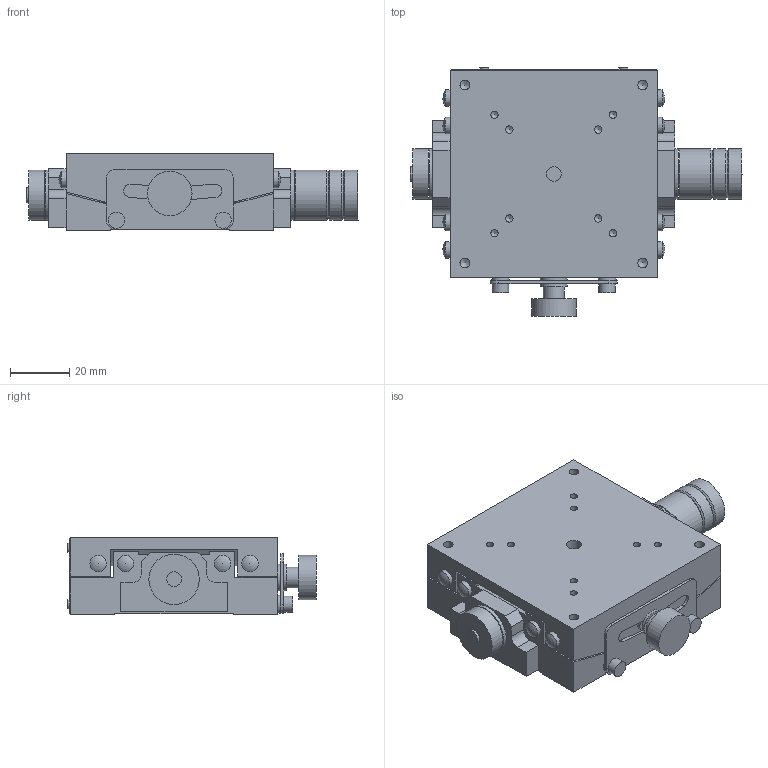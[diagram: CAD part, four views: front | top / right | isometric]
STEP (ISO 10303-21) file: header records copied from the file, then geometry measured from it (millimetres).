
FILE_DESCRIPTION( ( 'STEP AP203' ), '1' );
FILE_NAME( 'C:/Documents and Settings/09371/デスクトップ/CAD-ORG-STEP-DATA-3D簡素化依頼/3D_DATA_STEP/B56-70LR.step', '2007-02-08T00:54:37', ( ' ' ), ( ' ' ), 'XStep 1.0', ' ', ' ' );
FILE_SCHEMA( ( 'CONFIG_CONTROL_DESIGN' ) );
Length unit declared in the file: millimetre
Products named in the file (3): 1; 2; 3
Bounding box: 112 x 83.9 x 26 mm (x, y, z)
Volume: 134849.4 mm3; surface area: 40255.6 mm2
Topology: 3 solids, 3 shells, 212 faces, 539 edges, 357 vertices
Faces by surface type: cylinder 95, plane 93, cone 16, sphere 8
Full cylindrical faces by diameter (mm): 2.5 x16, 3 x4, 3.3 x8, 4 x1, 4.5 x4, 5 x5, 5.5 x2, 5.6 x8, 6 x2, 7 x1, 7.9 x2, 8 x4, 9 x2, 15 x1, 17 x6
Entity records: 5882 total; most frequent: CARTESIAN_POINT 1171, DIRECTION 992, ORIENTED_EDGE 776, AXIS2_PLACEMENT_3D 397, EDGE_CURVE 388, EDGE_LOOP 340, VERTEX_POINT 308, FACE_OUTER_BOUND 278
